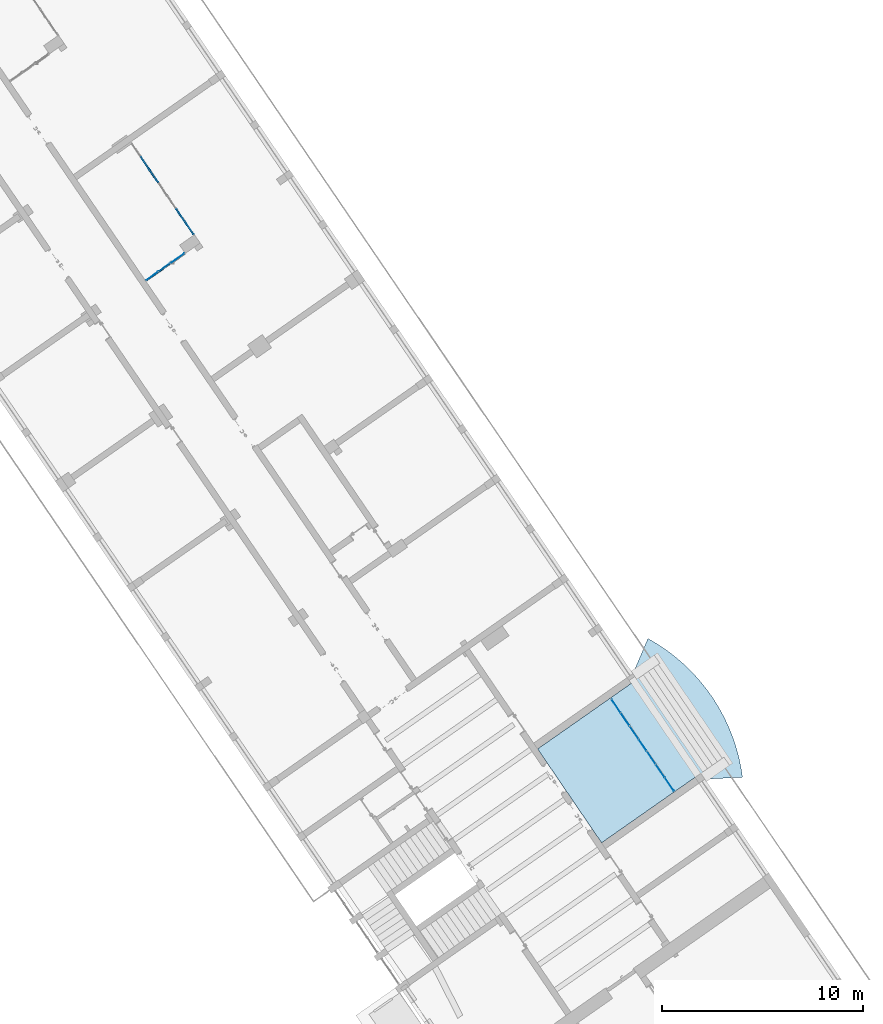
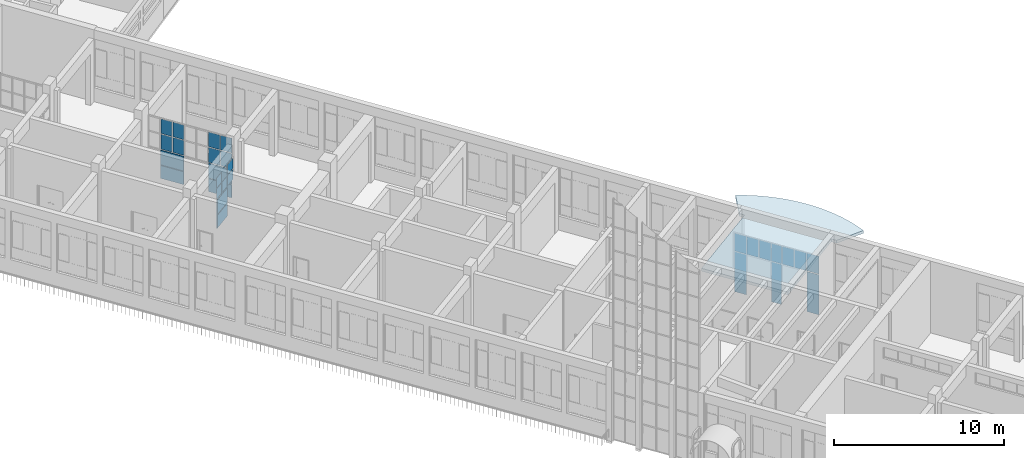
# One storey, part 46 of 157: 29 plates, 1 slab, 3 elements without a shape of their own.
"""IFC2X3 building model written with IfcOpenShell, lengths in millimetres."""

from ifc_helpers import new_model, entity, si_unit, converted_unit, derived_unit, direction, frame, frame_2d, origin, origin_2d_with_axis, place, context, subcontext, project, spatial, polyline, circle_curve, parameter, trimmed, segment, composite_curve, rectangle, outline, extrude, source, transform, mapped, material, layer, layer_set, layer_usage, type_object, type_shapes, element, aggregate, save


model = new_model("IFC2X3")

# Units and contexts
model_context = context("Model", 3, precision=0.01, world=origin(), true_north=direction((6.123031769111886e-17, 1.0)))
body_context = subcontext(model_context, "Body", "Model", "MODEL_VIEW")
ifc_project = project(units=[si_unit("LENGTHUNIT", "METRE", prefix="MILLI"), si_unit("AREAUNIT", "SQUARE_METRE"), si_unit("VOLUMEUNIT", "CUBIC_METRE"), converted_unit("PLANEANGLEUNIT", "DEGREE", entity("IfcRatioMeasure", 0.017453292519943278), si_unit("PLANEANGLEUNIT", "RADIAN"), dimensions=[0, 0, 0, 0, 0, 0, 0]), si_unit("MASSUNIT", "GRAM", prefix="KILO"), derived_unit("MASSDENSITYUNIT", [(si_unit("MASSUNIT", "GRAM", prefix="KILO"), 1), (si_unit("LENGTHUNIT", "METRE"), -3)]), derived_unit("MOMENTOFINERTIAUNIT", [(si_unit("LENGTHUNIT", "METRE"), 4)]), si_unit("TIMEUNIT", "SECOND"), si_unit("FREQUENCYUNIT", "HERTZ"), si_unit("THERMODYNAMICTEMPERATUREUNIT", "DEGREE_CELSIUS"), derived_unit("THERMALTRANSMITTANCEUNIT", [(si_unit("MASSUNIT", "GRAM", prefix="KILO"), 1), (si_unit("THERMODYNAMICTEMPERATUREUNIT", "KELVIN"), -1), (si_unit("TIMEUNIT", "SECOND"), -3)]), derived_unit("THERMALCONDUCTANCEUNIT", [(si_unit("MASSUNIT", "GRAM", prefix="KILO"), 1), (si_unit("LENGTHUNIT", "METRE"), 1), (si_unit("THERMODYNAMICTEMPERATUREUNIT", "KELVIN"), -1), (si_unit("TIMEUNIT", "SECOND"), -3)]), derived_unit("VOLUMETRICFLOWRATEUNIT", [(si_unit("LENGTHUNIT", "METRE"), 3), (si_unit("TIMEUNIT", "SECOND"), -1)]), derived_unit("MASSFLOWRATEUNIT", [(si_unit("MASSUNIT", "GRAM", prefix="KILO"), 1), (si_unit("TIMEUNIT", "SECOND"), -1)]), derived_unit("ROTATIONALFREQUENCYUNIT", [(si_unit("TIMEUNIT", "SECOND"), -1)]), si_unit("ELECTRICCURRENTUNIT", "AMPERE"), si_unit("ELECTRICVOLTAGEUNIT", "VOLT"), si_unit("POWERUNIT", "WATT"), converted_unit("FORCEUNIT", "KIP", entity("IfcRatioMeasure", 2.088543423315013e-05), si_unit("FORCEUNIT", "NEWTON"), dimensions=[1, 1, -2, 0, 0, 0, 0]), si_unit("ILLUMINANCEUNIT", "LUX"), si_unit("LUMINOUSFLUXUNIT", "LUMEN"), si_unit("LUMINOUSINTENSITYUNIT", "CANDELA"), derived_unit("USERDEFINED", [(si_unit("MASSUNIT", "GRAM", prefix="KILO"), -1), (si_unit("LENGTHUNIT", "METRE"), -2), (si_unit("TIMEUNIT", "SECOND"), 3), (si_unit("LUMINOUSFLUXUNIT", "LUMEN"), 1)]), derived_unit("USERDEFINED", [(si_unit("MASSUNIT", "GRAM", prefix="KILO"), 1), (si_unit("LENGTHUNIT", "METRE"), 3), (si_unit("TIMEUNIT", "SECOND"), -3), (si_unit("ELECTRICCURRENTUNIT", "AMPERE"), -2)]), derived_unit("USERDEFINED", [(si_unit("LENGTHUNIT", "METRE"), 2), (si_unit("TIMEUNIT", "SECOND"), -2)]), derived_unit("SOUNDPOWERUNIT", [(si_unit("MASSUNIT", "GRAM", prefix="KILO"), 1), (si_unit("LENGTHUNIT", "METRE"), 2), (si_unit("TIMEUNIT", "SECOND"), -3)]), derived_unit("SOUNDPRESSUREUNIT", [(si_unit("MASSUNIT", "GRAM", prefix="KILO"), 1), (si_unit("LENGTHUNIT", "METRE"), -1), (si_unit("TIMEUNIT", "SECOND"), -2)]), derived_unit("LINEARVELOCITYUNIT", [(si_unit("LENGTHUNIT", "METRE"), 1), (si_unit("TIMEUNIT", "SECOND"), -1)]), si_unit("PRESSUREUNIT", "PASCAL"), derived_unit("USERDEFINED", [(si_unit("LENGTHUNIT", "METRE"), -2), (si_unit("MASSUNIT", "GRAM", prefix="KILO"), 1), (si_unit("TIMEUNIT", "SECOND"), -2)]), derived_unit("LINEARFORCEUNIT", [(si_unit("MASSUNIT", "GRAM", prefix="KILO"), 1), (si_unit("LENGTHUNIT", "METRE"), 1), (si_unit("TIMEUNIT", "SECOND"), -2), (si_unit("LENGTHUNIT", "METRE"), -1)]), derived_unit("PLANARFORCEUNIT", [(si_unit("MASSUNIT", "GRAM", prefix="KILO"), 1), (si_unit("LENGTHUNIT", "METRE"), 1), (si_unit("TIMEUNIT", "SECOND"), -2), (si_unit("LENGTHUNIT", "METRE"), -2)]), derived_unit("SPECIFICHEATCAPACITYUNIT", [(si_unit("LENGTHUNIT", "METRE"), 2), (si_unit("TIMEUNIT", "SECOND"), -2), (si_unit("THERMODYNAMICTEMPERATUREUNIT", "KELVIN"), -1)]), derived_unit("VAPORPERMEABILITYUNIT", [(si_unit("TIMEUNIT", "SECOND"), 1), (si_unit("LENGTHUNIT", "METRE"), -1)]), derived_unit("DYNAMICVISCOSITYUNIT", [(si_unit("MASSUNIT", "GRAM", prefix="KILO"), 1), (si_unit("LENGTHUNIT", "METRE"), -1), (si_unit("TIMEUNIT", "SECOND"), -1)]), derived_unit("THERMALEXPANSIONCOEFFICIENTUNIT", [(si_unit("THERMODYNAMICTEMPERATUREUNIT", "KELVIN"), -1)])], contexts=[model_context])

# Site, building, storey
site_placement = place(None, frame((0.0, 0.0, 0.0), z_axis=(0.0, 0.0, 1.0), x_axis=(0.8191520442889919, 0.5735764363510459, 0.0)))
site = spatial("IfcSite", under=ifc_project, at=site_placement, Name="Default", CompositionType="ELEMENT")
building_placement = place(site_placement, origin())
building = spatial("IfcBuilding", under=site, at=building_placement, CompositionType="ELEMENT")
storey_placement = place(building_placement, origin())
storey = spatial("IfcBuildingStorey", under=building, at=storey_placement, Name="1.EG +0.00", CompositionType="ELEMENT", Elevation=-4.331468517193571e-12)

# Curtain wall, plates
curtain_wall_type_1 = type_object("IfcCurtainWallType", Name="Curtain Wall:Curtain_Wall_CJC_Int5", PredefinedType="NOTDEFINED")
curtain_wall_1_placement = place(storey_placement, origin())
curtain_wall_1 = element("IfcCurtainWall", 1, at=curtain_wall_1_placement, inside=storey, type_object=curtain_wall_type_1, Name="Curtain Wall:Curtain_Wall_CJC_Int5", ObjectType="Curtain Wall:Curtain_Wall_CJC_Int5")
ifc_material_1 = material(Name="Default")
plate_type_1 = type_object("IfcPlateType", Name="System Panel:Solid", PredefinedType="CURTAIN_PANEL", material=ifc_material_1)
shared_shape_1 = source(origin(), body_context, "Body", "SweptSolid", [
    extrude(rectangle(XDim=925.0000000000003, YDim=1507.2679333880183, at=frame_2d((0.0, -5.0799769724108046e-08), x_axis=(1.0, 0.0))), frame((5.078863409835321e-08, -19.049999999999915, 462.50000000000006), z_axis=(0.0, 1.0, 0.0), x_axis=(0.0, 0.0, 1.0)), (0.0, 0.0, 1.0), 63.5),
])
type_shapes(plate_type_1, [shared_shape_1])
plate_1_placement = place(curtain_wall_1_placement, frame((-210098.1783882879, 147049.92892178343, 50.0), z_axis=(0.0, 0.0, 1.0), x_axis=(0.012616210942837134, 0.9999204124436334, 0.0)))
plate_1 = element("IfcPlate", 2, at=plate_1_placement, type_object=plate_type_1, material=ifc_material_1, Name="System Panel:Solid", ObjectType="System Panel:Solid", context=body_context, shape_type="MappedRepresentation", body=[
    mapped(shared_shape_1, transform((0.0, 0.0, 0.0), scale=1.0)),
])
plate_2_placement = place(curtain_wall_1_placement, frame((-210058.8847468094, 150164.21690980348, 50.0), z_axis=(0.0, 0.0, 1.0), x_axis=(0.012616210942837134, 0.9999204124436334, 0.0)))
plate_2 = element("IfcPlate", 3, at=plate_2_placement, type_object=plate_type_1, material=ifc_material_1, Name="System Panel:Solid", ObjectType="System Panel:Solid", context=body_context, shape_type="MappedRepresentation", body=[
    mapped(shared_shape_1, transform((0.0, 0.0, 0.0), scale=1.0)),
])
plate_type_2 = type_object("IfcPlateType", Name="System Panel:Solid", PredefinedType="CURTAIN_PANEL", material=ifc_material_1)
shared_shape_2 = source(origin(), body_context, "Body", "SweptSolid", [
    extrude(rectangle(XDim=1049.9999999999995, YDim=1507.2679333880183, at=frame_2d((1.1368683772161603e-13, -5.0799769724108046e-08), x_axis=(1.0, 0.0))), frame((5.078863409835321e-08, -19.049999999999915, 525.0), z_axis=(0.0, 1.0, 0.0), x_axis=(0.0, 0.0, 1.0)), (0.0, 0.0, 1.0), 63.5),
])
type_shapes(plate_type_2, [shared_shape_2])
plate_3_placement = place(curtain_wall_1_placement, frame((-210098.1783882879, 147049.92892178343, 1025.0), z_axis=(0.0, 0.0, 1.0), x_axis=(0.012616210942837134, 0.9999204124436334, 0.0)))
plate_3 = element("IfcPlate", 4, at=plate_3_placement, type_object=plate_type_2, material=ifc_material_1, Name="System Panel:Solid", ObjectType="System Panel:Solid", context=body_context, shape_type="MappedRepresentation", body=[
    mapped(shared_shape_2, transform((0.0, 0.0, 0.0), scale=1.0)),
])
plate_4_placement = place(curtain_wall_1_placement, frame((-210058.8847468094, 150164.21690980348, 1025.0), z_axis=(0.0, 0.0, 1.0), x_axis=(0.012616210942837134, 0.9999204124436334, 0.0)))
plate_4 = element("IfcPlate", 5, at=plate_4_placement, type_object=plate_type_2, material=ifc_material_1, Name="System Panel:Solid", ObjectType="System Panel:Solid", context=body_context, shape_type="MappedRepresentation", body=[
    mapped(shared_shape_2, transform((0.0, 0.0, 0.0), scale=1.0)),
])
ifc_material_2 = material(Name="Glass")
plate_type_3 = type_object("IfcPlateType", Name="System Panel:Glazed_CJC", PredefinedType="CURTAIN_PANEL", material=ifc_material_2)
shared_shape_3 = source(origin(), body_context, "Body", "SweptSolid", [
    extrude(rectangle(XDim=10.0, YDim=728.6339668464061, at=frame_2d((0.0, 1.7905676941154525e-12), x_axis=(1.0, 0.0))), frame((0.0, 0.0, 0.0), z_axis=(0.0, 0.0, 1.0), x_axis=(0.0, 1.0, 0.0)), (0.0, 0.0, 1.0), 1075.0000000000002),
])
type_shapes(plate_type_3, [shared_shape_3])
plate_5_placement = place(curtain_wall_1_placement, frame((-210103.09009347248, 146660.64292329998, 2125.0), z_axis=(0.0, 0.0, 1.0), x_axis=(0.012616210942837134, 0.9999204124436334, 0.0)))
plate_5 = element("IfcPlate", 6, at=plate_5_placement, type_object=plate_type_3, material=ifc_material_2, Name="System Panel:Glazed_CJC", ObjectType="System Panel:Glazed_CJC", context=body_context, shape_type="MappedRepresentation", body=[
    mapped(shared_shape_3, transform((0.0, 0.0, 0.0), scale=1.0)),
])
plate_6_placement = place(curtain_wall_1_placement, frame((-210093.26668310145, 147439.21492041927, 2125.0), z_axis=(0.0, 0.0, 1.0), x_axis=(0.012616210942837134, 0.9999204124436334, 0.0)))
plate_6 = element("IfcPlate", 7, at=plate_6_placement, type_object=plate_type_3, material=ifc_material_2, Name="System Panel:Glazed_CJC", ObjectType="System Panel:Glazed_CJC", context=body_context, shape_type="MappedRepresentation", body=[
    mapped(shared_shape_3, transform((0.0, 0.0, 0.0), scale=1.0)),
])
plate_7_placement = place(curtain_wall_1_placement, frame((-210063.796451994, 149774.93091132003, 2125.0), z_axis=(0.0, 0.0, 1.0), x_axis=(0.012616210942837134, 0.9999204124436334, 0.0)))
plate_7 = element("IfcPlate", 8, at=plate_7_placement, type_object=plate_type_3, material=ifc_material_2, Name="System Panel:Glazed_CJC", ObjectType="System Panel:Glazed_CJC", context=body_context, shape_type="MappedRepresentation", body=[
    mapped(shared_shape_3, transform((0.0, 0.0, 0.0), scale=1.0)),
])
plate_8_placement = place(curtain_wall_1_placement, frame((-210053.9730416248, 150553.50290828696, 2125.0), z_axis=(0.0, 0.0, 1.0), x_axis=(0.012616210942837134, 0.9999204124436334, 0.0)))
plate_8 = element("IfcPlate", 9, at=plate_8_placement, type_object=plate_type_3, material=ifc_material_2, Name="System Panel:Glazed_CJC", ObjectType="System Panel:Glazed_CJC", context=body_context, shape_type="MappedRepresentation", body=[
    mapped(shared_shape_3, transform((0.0, 0.0, 0.0), scale=1.0)),
])
plate_type_4 = type_object("IfcPlateType", Name="System Panel:Glazed_CJC", PredefinedType="CURTAIN_PANEL", material=ifc_material_2)
shared_shape_4 = source(origin(), body_context, "Body", "SweptSolid", [
    extrude(rectangle(XDim=10.0, YDim=728.6339668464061, at=frame_2d((0.0, 1.7905676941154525e-12), x_axis=(1.0, 0.0))), frame((0.0, 0.0, 0.0), z_axis=(0.0, 0.0, 1.0), x_axis=(0.0, 1.0, 0.0)), (0.0, 0.0, 1.0), 1050.0000000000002),
])
type_shapes(plate_type_4, [shared_shape_4])
plate_9_placement = place(curtain_wall_1_placement, frame((-210103.09009347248, 146660.64292329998, 3250.0), z_axis=(0.0, 0.0, 1.0), x_axis=(0.012616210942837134, 0.9999204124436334, 0.0)))
plate_9 = element("IfcPlate", 10, at=plate_9_placement, type_object=plate_type_4, material=ifc_material_2, Name="System Panel:Glazed_CJC", ObjectType="System Panel:Glazed_CJC", context=body_context, shape_type="MappedRepresentation", body=[
    mapped(shared_shape_4, transform((0.0, 0.0, 0.0), scale=1.0)),
])
plate_10_placement = place(curtain_wall_1_placement, frame((-210093.26668310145, 147439.21492041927, 3250.0), z_axis=(0.0, 0.0, 1.0), x_axis=(0.012616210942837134, 0.9999204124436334, 0.0)))
plate_10 = element("IfcPlate", 11, at=plate_10_placement, type_object=plate_type_4, material=ifc_material_2, Name="System Panel:Glazed_CJC", ObjectType="System Panel:Glazed_CJC", context=body_context, shape_type="MappedRepresentation", body=[
    mapped(shared_shape_4, transform((0.0, 0.0, 0.0), scale=1.0)),
])
plate_11_placement = place(curtain_wall_1_placement, frame((-210063.796451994, 149774.93091132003, 3250.0), z_axis=(0.0, 0.0, 1.0), x_axis=(0.012616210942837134, 0.9999204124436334, 0.0)))
plate_11 = element("IfcPlate", 12, at=plate_11_placement, type_object=plate_type_4, material=ifc_material_2, Name="System Panel:Glazed_CJC", ObjectType="System Panel:Glazed_CJC", context=body_context, shape_type="MappedRepresentation", body=[
    mapped(shared_shape_4, transform((0.0, 0.0, 0.0), scale=1.0)),
])
plate_12_placement = place(curtain_wall_1_placement, frame((-210053.9730416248, 150553.50290828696, 3250.0), z_axis=(0.0, 0.0, 1.0), x_axis=(0.012616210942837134, 0.9999204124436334, 0.0)))
plate_12 = element("IfcPlate", 13, at=plate_12_placement, type_object=plate_type_4, material=ifc_material_2, Name="System Panel:Glazed_CJC", ObjectType="System Panel:Glazed_CJC", context=body_context, shape_type="MappedRepresentation", body=[
    mapped(shared_shape_4, transform((0.0, 0.0, 0.0), scale=1.0)),
])
aggregate(curtain_wall_1, [plate_1, plate_2, plate_3, plate_4, plate_5, plate_6, plate_7, plate_8, plate_9, plate_10, plate_11, plate_12])

curtain_wall_2_placement = place(storey_placement, origin())
curtain_wall_2 = element("IfcCurtainWall", 14, at=curtain_wall_2_placement, inside=storey, type_object=curtain_wall_type_1, Name="Curtain Wall:Curtain_Wall_CJC_Int5", ObjectType="Curtain Wall:Curtain_Wall_CJC_Int5")
plate_type_5 = type_object("IfcPlateType", Name="System Panel:Solid", PredefinedType="CURTAIN_PANEL", material=ifc_material_1)
shared_shape_5 = source(origin(), body_context, "Body", "SweptSolid", [
    extrude(rectangle(XDim=925.0000000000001, YDim=1428.107482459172, at=frame_2d((0.0, 3.9940287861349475), x_axis=(1.0, 0.0))), frame((-3.994028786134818, -19.05, 462.50000000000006), z_axis=(0.0, 1.0, 0.0), x_axis=(0.0, 0.0, 1.0)), (0.0, 0.0, 1.0), 63.5),
])
type_shapes(plate_type_5, [shared_shape_5])
plate_13_placement = place(curtain_wall_2_placement, frame((-212625.61760026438, 145771.35891435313, 50.0), z_axis=(0.0, 0.0, 1.0), x_axis=(-1.0, 0.0, 0.0)))
plate_13 = element("IfcPlate", 15, at=plate_13_placement, type_object=plate_type_5, material=ifc_material_1, Name="System Panel:Solid", ObjectType="System Panel:Solid", context=body_context, shape_type="MappedRepresentation", body=[
    mapped(shared_shape_5, transform((0.0, 0.0, 0.0), scale=1.0)),
])
plate_type_6 = type_object("IfcPlateType", Name="System Panel:Solid", PredefinedType="CURTAIN_PANEL", material=ifc_material_1)
shared_shape_6 = source(origin(), body_context, "Body", "SweptSolid", [
    extrude(rectangle(XDim=1049.9999999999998, YDim=1428.107482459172, at=frame_2d((0.0, 3.994028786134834), x_axis=(1.0, 0.0))), frame((-3.9940287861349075, -19.05, 525.0), z_axis=(0.0, 1.0, 0.0), x_axis=(0.0, 0.0, 1.0)), (0.0, 0.0, 1.0), 63.5),
])
type_shapes(plate_type_6, [shared_shape_6])
plate_14_placement = place(curtain_wall_2_placement, frame((-212625.61760026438, 145771.35891435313, 1025.0), z_axis=(0.0, 0.0, 1.0), x_axis=(-1.0, 0.0, 0.0)))
plate_14 = element("IfcPlate", 16, at=plate_14_placement, type_object=plate_type_6, material=ifc_material_1, Name="System Panel:Solid", ObjectType="System Panel:Solid", context=body_context, shape_type="MappedRepresentation", body=[
    mapped(shared_shape_6, transform((0.0, 0.0, 0.0), scale=1.0)),
])
plate_type_7 = type_object("IfcPlateType", Name="System Panel:Glazed_CJC", PredefinedType="CURTAIN_PANEL", material=ifc_material_2)
shared_shape_7 = source(origin(), body_context, "Body", "SweptSolid", [
    extrude(rectangle(XDim=10.0, YDim=825.0000000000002, at=origin_2d_with_axis()), frame((0.0, 0.0, 0.0), z_axis=(0.0, 0.0, 1.0), x_axis=(0.0, 1.0, 0.0)), (0.0, 0.0, 1.0), 750.0000000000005),
])
type_shapes(plate_type_7, [shared_shape_7])
plate_15_placement = place(curtain_wall_2_placement, frame((-211449.0638590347, 145771.35891435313, 2125.0), z_axis=(0.0, 0.0, 1.0), x_axis=(-1.0, 0.0, 0.0)))
plate_15 = element("IfcPlate", 17, at=plate_15_placement, type_object=plate_type_7, material=ifc_material_2, Name="System Panel:Glazed_CJC", ObjectType="System Panel:Glazed_CJC", context=body_context, shape_type="MappedRepresentation", body=[
    mapped(shared_shape_7, transform((0.0, 0.0, 0.0), scale=1.0)),
])
plate_type_8 = type_object("IfcPlateType", Name="System Panel:Glazed_CJC", PredefinedType="CURTAIN_PANEL", material=ifc_material_2)
shared_shape_8 = source(origin(), body_context, "Body", "SweptSolid", [
    extrude(rectangle(XDim=10.0, YDim=677.0716548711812, at=origin_2d_with_axis()), frame((0.0, 0.0, 0.0), z_axis=(0.0, 0.0, 1.0), x_axis=(0.0, 1.0, 0.0)), (0.0, 0.0, 1.0), 750.0000000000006),
])
type_shapes(plate_type_8, [shared_shape_8])
plate_16_placement = place(curtain_wall_2_placement, frame((-212250.09968647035, 145771.35891435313, 2125.0), z_axis=(0.0, 0.0, 1.0), x_axis=(-1.0, 0.0, 0.0)))
plate_16 = element("IfcPlate", 18, at=plate_16_placement, type_object=plate_type_8, material=ifc_material_2, Name="System Panel:Glazed_CJC", ObjectType="System Panel:Glazed_CJC", context=body_context, shape_type="MappedRepresentation", body=[
    mapped(shared_shape_8, transform((0.0, 0.0, 0.0), scale=1.0)),
])
plate_type_9 = type_object("IfcPlateType", Name="System Panel:Glazed_CJC", PredefinedType="CURTAIN_PANEL", material=ifc_material_2)
shared_shape_9 = source(origin(), body_context, "Body", "SweptSolid", [
    extrude(rectangle(XDim=10.0, YDim=701.0358275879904, at=origin_2d_with_axis()), frame((0.0, 0.0, 0.0), z_axis=(0.0, 0.0, 1.0), x_axis=(0.0, 1.0, 0.0)), (0.0, 0.0, 1.0), 750.0000000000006),
])
type_shapes(plate_type_9, [shared_shape_9])
plate_17_placement = place(curtain_wall_2_placement, frame((-212989.15342769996, 145771.35891435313, 2125.0), z_axis=(0.0, 0.0, 1.0), x_axis=(-1.0, 0.0, 0.0)))
plate_17 = element("IfcPlate", 19, at=plate_17_placement, type_object=plate_type_9, material=ifc_material_2, Name="System Panel:Glazed_CJC", ObjectType="System Panel:Glazed_CJC", context=body_context, shape_type="MappedRepresentation", body=[
    mapped(shared_shape_9, transform((0.0, 0.0, 0.0), scale=1.0)),
])
plate_type_10 = type_object("IfcPlateType", Name="System Panel:Glazed_CJC", PredefinedType="CURTAIN_PANEL", material=ifc_material_2)
shared_shape_10 = source(origin(), body_context, "Body", "SweptSolid", [
    extrude(rectangle(XDim=10.0, YDim=825.0000000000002, at=origin_2d_with_axis()), frame((0.0, 0.0, 0.0), z_axis=(0.0, 0.0, 1.0), x_axis=(0.0, 1.0, 0.0)), (0.0, 0.0, 1.0), 725.0000000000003),
])
type_shapes(plate_type_10, [shared_shape_10])
plate_18_placement = place(curtain_wall_2_placement, frame((-211449.0638590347, 145771.35891435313, 2925.0), z_axis=(0.0, 0.0, 1.0), x_axis=(-1.0, 0.0, 0.0)))
plate_18 = element("IfcPlate", 20, at=plate_18_placement, type_object=plate_type_10, material=ifc_material_2, Name="System Panel:Glazed_CJC", ObjectType="System Panel:Glazed_CJC", context=body_context, shape_type="MappedRepresentation", body=[
    mapped(shared_shape_10, transform((0.0, 0.0, 0.0), scale=1.0)),
])
plate_type_11 = type_object("IfcPlateType", Name="System Panel:Glazed_CJC", PredefinedType="CURTAIN_PANEL", material=ifc_material_2)
shared_shape_11 = source(origin(), body_context, "Body", "SweptSolid", [
    extrude(rectangle(XDim=10.0, YDim=701.0358275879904, at=origin_2d_with_axis()), frame((0.0, 0.0, 0.0), z_axis=(0.0, 0.0, 1.0), x_axis=(0.0, 1.0, 0.0)), (0.0, 0.0, 1.0), 725.0000000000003),
])
type_shapes(plate_type_11, [shared_shape_11])
plate_19_placement = place(curtain_wall_2_placement, frame((-212989.15342769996, 145771.35891435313, 2925.0), z_axis=(0.0, 0.0, 1.0), x_axis=(-1.0, 0.0, 0.0)))
plate_19 = element("IfcPlate", 21, at=plate_19_placement, type_object=plate_type_11, material=ifc_material_2, Name="System Panel:Glazed_CJC", ObjectType="System Panel:Glazed_CJC", context=body_context, shape_type="MappedRepresentation", body=[
    mapped(shared_shape_11, transform((0.0, 0.0, 0.0), scale=1.0)),
])
aggregate(curtain_wall_2, [plate_13, plate_14, plate_15, plate_16, plate_17, plate_18, plate_19])

# Slab
ifc_material_3 = material(Name="Analytical Floor Surface_CJC")
ifc_layer = layer(ifc_material_3, 200.0)
ifc_layer_set = layer_set([ifc_layer], Name="Floor:Boden_CJC 2")
ifc_layer_usage = layer_usage(ifc_layer_set, "AXIS3", "POSITIVE", 0.0)
slab_type = type_object("IfcSlabType", Name="Floor:Boden_CJC 2", PredefinedType="FLOOR", material=ifc_layer_set)
slab_placement = place(storey_placement, origin())
element("IfcSlab", 22, at=slab_placement, inside=storey, type_object=slab_type, material=ifc_layer_usage, Name="Floor:Boden_CJC 2", ObjectType="Floor:Boden_CJC 2", PredefinedType="FLOOR", context=body_context, shape_type="SweptSolid", body=[
    extrude(outline(composite_curve([segment(trimmed(circle_curve(frame_2d((-4896.721993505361, -2527.334412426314), x_axis=(1.0, 0.0)), 9216.652736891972), [parameter(0.0)], [parameter(53.84404416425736)], True, "PARAMETER"), True, "CONTINUOUS"), segment(polyline([(540.966439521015, 4914.320791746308), (-446.3302750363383, 3321.4583996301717)]), True, "CONTINUOUS"), segment(polyline([(-446.3302750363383, 3321.4583996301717), (-286.66070864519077, 3007.2361729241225)]), True, "CONTINUOUS"), segment(polyline([(-286.66070864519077, 3007.2361729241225), (-5693.155911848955, 345.9366433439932)]), True, "CONTINUOUS"), segment(polyline([(-5693.155911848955, 345.9366433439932), (-3133.36929420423, -4691.464802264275)]), True, "CONTINUOUS"), segment(polyline([(-3133.36929420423, -4691.464802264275), (2273.0695309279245, -2030.193024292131)]), True, "CONTINUOUS"), segment(polyline([(2273.0695309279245, -2030.193024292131), (2425.5494758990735, -2339.959768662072)]), True, "CONTINUOUS"), segment(polyline([(2425.5494758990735, -2339.959768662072), (4319.930743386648, -2527.334412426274)]), True, "CONTINUOUS")], self_intersect=False)), frame((-205891.36864989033, 112696.0119530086, 4500.0), z_axis=(0.0, 0.0, -1.0), x_axis=(0.8971943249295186, 0.4416359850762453, 0.0)), (0.0, 0.0, 1.0), 200.0),
])

# Curtain wall, plates
curtain_wall_type_2 = type_object("IfcCurtainWallType", Name="Curtain Wall:Curtain_Wall_CJC_ENTR1", PredefinedType="NOTDEFINED")
curtain_wall_3_placement = place(storey_placement, origin())
curtain_wall_3 = element("IfcCurtainWall", 23, at=curtain_wall_3_placement, inside=storey, type_object=curtain_wall_type_2, Name="Curtain Wall:Curtain_Wall_CJC_ENTR1", ObjectType="Curtain Wall:Curtain_Wall_CJC_ENTR1")
plate_type_12 = type_object("IfcPlateType", Name="System Panel:Glazed_CJC", PredefinedType="CURTAIN_PANEL", material=ifc_material_2)
shared_shape_12 = source(origin(), body_context, "Body", "SweptSolid", [
    extrude(rectangle(XDim=10.0, YDim=784.999999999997, at=frame_2d((0.0, 2.1316282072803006e-12), x_axis=(1.0, 0.0))), frame((0.0, 0.0, 0.0), z_axis=(0.0, 0.0, 1.0), x_axis=(0.0, 1.0, 0.0)), (0.0, 0.0, 1.0), 2875.0),
])
type_shapes(plate_type_12, [shared_shape_12])
plate_20_placement = place(curtain_wall_3_placement, frame((-206415.46052579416, 110313.82311934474, 50.0), z_axis=(0.0, 0.0, 1.0), x_axis=(0.012719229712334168, 0.9999191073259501, 0.0)))
plate_20 = element("IfcPlate", 24, at=plate_20_placement, type_object=plate_type_12, material=ifc_material_2, Name="System Panel:Glazed_CJC", ObjectType="System Panel:Glazed_CJC", context=body_context, shape_type="MappedRepresentation", body=[
    mapped(shared_shape_12, transform((0.0, 0.0, 0.0), scale=1.0)),
])
plate_type_13 = type_object("IfcPlateType", Name="System Panel:Glazed_CJC", PredefinedType="CURTAIN_PANEL", material=ifc_material_2)
shared_shape_13 = source(origin(), body_context, "Body", "SweptSolid", [
    extrude(rectangle(XDim=10.0, YDim=655.0000003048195, at=frame_2d((0.0, 1.1652900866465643e-12), x_axis=(1.0, 0.0))), frame((0.0, 0.0, 0.0), z_axis=(0.0, 0.0, 1.0), x_axis=(0.0, 1.0, 0.0)), (0.0, 0.0, 1.0), 2875.0),
])
type_shapes(plate_type_13, [shared_shape_13])
plate_21_placement = place(curtain_wall_3_placement, frame((-206385.31595137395, 112683.63140385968, 50.0), z_axis=(0.0, 0.0, 1.0), x_axis=(0.012719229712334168, 0.9999191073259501, 0.0)))
plate_21 = element("IfcPlate", 25, at=plate_21_placement, type_object=plate_type_13, material=ifc_material_2, Name="System Panel:Glazed_CJC", ObjectType="System Panel:Glazed_CJC", context=body_context, shape_type="MappedRepresentation", body=[
    mapped(shared_shape_13, transform((0.0, 0.0, 0.0), scale=1.0)),
])
plate_type_14 = type_object("IfcPlateType", Name="System Panel:Glazed_CJC", PredefinedType="CURTAIN_PANEL", material=ifc_material_2)
shared_shape_14 = source(origin(), body_context, "Body", "SweptSolid", [
    extrude(rectangle(XDim=10.0, YDim=760.000000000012, at=frame_2d((0.0, 7.389644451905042e-13), x_axis=(1.0, 0.0))), frame((0.0, 0.0, 0.0), z_axis=(0.0, 0.0, 1.0), x_axis=(0.0, 1.0, 0.0)), (0.0, 0.0, 1.0), 2875.0),
])
type_shapes(plate_type_14, [shared_shape_14])
plate_22_placement = place(curtain_wall_3_placement, frame((-206355.3303673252, 115040.94069953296, 50.0), z_axis=(0.0, 0.0, 1.0), x_axis=(0.012719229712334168, 0.9999191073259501, 0.0)))
plate_22 = element("IfcPlate", 26, at=plate_22_placement, type_object=plate_type_14, material=ifc_material_2, Name="System Panel:Glazed_CJC", ObjectType="System Panel:Glazed_CJC", context=body_context, shape_type="MappedRepresentation", body=[
    mapped(shared_shape_14, transform((0.0, 0.0, 0.0), scale=1.0)),
])
plate_type_15 = type_object("IfcPlateType", Name="System Panel:Glazed_CJC", PredefinedType="CURTAIN_PANEL", material=ifc_material_2)
shared_shape_15 = source(origin(), body_context, "Body", "SweptSolid", [
    extrude(rectangle(XDim=10.0, YDim=784.999999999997, at=frame_2d((0.0, 2.1316282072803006e-12), x_axis=(1.0, 0.0))), frame((0.0, 0.0, 0.0), z_axis=(0.0, 0.0, 1.0), x_axis=(0.0, 1.0, 0.0)), (0.0, 0.0, 1.0), 1274.9999999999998),
])
type_shapes(plate_type_15, [shared_shape_15])
plate_23_placement = place(curtain_wall_3_placement, frame((-206415.46052579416, 110313.82311934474, 2975.0), z_axis=(0.0, 0.0, 1.0), x_axis=(0.012719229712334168, 0.9999191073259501, 0.0)))
plate_23 = element("IfcPlate", 27, at=plate_23_placement, type_object=plate_type_15, material=ifc_material_2, Name="System Panel:Glazed_CJC", ObjectType="System Panel:Glazed_CJC", context=body_context, shape_type="MappedRepresentation", body=[
    mapped(shared_shape_15, transform((0.0, 0.0, 0.0), scale=1.0)),
])
plate_type_16 = type_object("IfcPlateType", Name="System Panel:Glazed_CJC", PredefinedType="CURTAIN_PANEL", material=ifc_material_2)
shared_shape_16 = source(origin(), body_context, "Body", "SweptSolid", [
    extrude(rectangle(XDim=10.0, YDim=750.0000000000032, at=frame_2d((0.0, 1.4210854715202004e-12), x_axis=(1.0, 0.0))), frame((0.0, 0.0, 0.0), z_axis=(0.0, 0.0, 1.0), x_axis=(0.0, 1.0, 0.0)), (0.0, 0.0, 1.0), 1274.9999999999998),
])
type_shapes(plate_type_16, [shared_shape_16])
plate_24_placement = place(curtain_wall_3_placement, frame((-206405.0625555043, 111131.25698958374, 2975.0), z_axis=(0.0, 0.0, 1.0), x_axis=(0.012719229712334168, 0.9999191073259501, 0.0)))
plate_24 = element("IfcPlate", 28, at=plate_24_placement, type_object=plate_type_16, material=ifc_material_2, Name="System Panel:Glazed_CJC", ObjectType="System Panel:Glazed_CJC", context=body_context, shape_type="MappedRepresentation", body=[
    mapped(shared_shape_16, transform((0.0, 0.0, 0.0), scale=1.0)),
])
plate_25_placement = place(curtain_wall_3_placement, frame((-206394.88717173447, 111931.19227544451, 2975.0), z_axis=(0.0, 0.0, 1.0), x_axis=(0.012719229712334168, 0.9999191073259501, 0.0)))
plate_25 = element("IfcPlate", 29, at=plate_25_placement, type_object=plate_type_16, material=ifc_material_2, Name="System Panel:Glazed_CJC", ObjectType="System Panel:Glazed_CJC", context=body_context, shape_type="MappedRepresentation", body=[
    mapped(shared_shape_16, transform((0.0, 0.0, 0.0), scale=1.0)),
])
plate_26_placement = place(curtain_wall_3_placement, frame((-206375.7447310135, 113436.07053227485, 2975.0), z_axis=(0.0, 0.0, 1.0), x_axis=(0.012719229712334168, 0.9999191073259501, 0.0)))
plate_26 = element("IfcPlate", 30, at=plate_26_placement, type_object=plate_type_16, material=ifc_material_2, Name="System Panel:Glazed_CJC", ObjectType="System Panel:Glazed_CJC", context=body_context, shape_type="MappedRepresentation", body=[
    mapped(shared_shape_16, transform((0.0, 0.0, 0.0), scale=1.0)),
])
plate_27_placement = place(curtain_wall_3_placement, frame((-206365.5693472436, 114236.0058181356, 2975.0), z_axis=(0.0, 0.0, 1.0), x_axis=(0.012719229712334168, 0.9999191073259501, 0.0)))
plate_27 = element("IfcPlate", 31, at=plate_27_placement, type_object=plate_type_16, material=ifc_material_2, Name="System Panel:Glazed_CJC", ObjectType="System Panel:Glazed_CJC", context=body_context, shape_type="MappedRepresentation", body=[
    mapped(shared_shape_16, transform((0.0, 0.0, 0.0), scale=1.0)),
])
plate_type_17 = type_object("IfcPlateType", Name="System Panel:Glazed_CJC", PredefinedType="CURTAIN_PANEL", material=ifc_material_2)
shared_shape_17 = source(origin(), body_context, "Body", "SweptSolid", [
    extrude(rectangle(XDim=10.0, YDim=655.0000003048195, at=frame_2d((0.0, 1.1652900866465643e-12), x_axis=(1.0, 0.0))), frame((0.0, 0.0, 0.0), z_axis=(0.0, 0.0, 1.0), x_axis=(0.0, 1.0, 0.0)), (0.0, 0.0, 1.0), 1274.9999999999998),
])
type_shapes(plate_type_17, [shared_shape_17])
plate_28_placement = place(curtain_wall_3_placement, frame((-206385.31595137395, 112683.63140385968, 2975.0), z_axis=(0.0, 0.0, 1.0), x_axis=(0.012719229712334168, 0.9999191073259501, 0.0)))
plate_28 = element("IfcPlate", 32, at=plate_28_placement, type_object=plate_type_17, material=ifc_material_2, Name="System Panel:Glazed_CJC", ObjectType="System Panel:Glazed_CJC", context=body_context, shape_type="MappedRepresentation", body=[
    mapped(shared_shape_17, transform((0.0, 0.0, 0.0), scale=1.0)),
])
plate_type_18 = type_object("IfcPlateType", Name="System Panel:Glazed_CJC", PredefinedType="CURTAIN_PANEL", material=ifc_material_2)
shared_shape_18 = source(origin(), body_context, "Body", "SweptSolid", [
    extrude(rectangle(XDim=10.0, YDim=760.000000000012, at=frame_2d((0.0, 7.389644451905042e-13), x_axis=(1.0, 0.0))), frame((0.0, 0.0, 0.0), z_axis=(0.0, 0.0, 1.0), x_axis=(0.0, 1.0, 0.0)), (0.0, 0.0, 1.0), 1275.0),
])
type_shapes(plate_type_18, [shared_shape_18])
plate_29_placement = place(curtain_wall_3_placement, frame((-206355.3303673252, 115040.94069953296, 2975.0), z_axis=(0.0, 0.0, 1.0), x_axis=(0.012719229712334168, 0.9999191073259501, 0.0)))
plate_29 = element("IfcPlate", 33, at=plate_29_placement, type_object=plate_type_18, material=ifc_material_2, Name="System Panel:Glazed_CJC", ObjectType="System Panel:Glazed_CJC", context=body_context, shape_type="MappedRepresentation", body=[
    mapped(shared_shape_18, transform((0.0, 0.0, 0.0), scale=1.0)),
])
aggregate(curtain_wall_3, [plate_20, plate_21, plate_22, plate_23, plate_24, plate_25, plate_28, plate_26, plate_27, plate_29])

save(model, "model.ifc")
